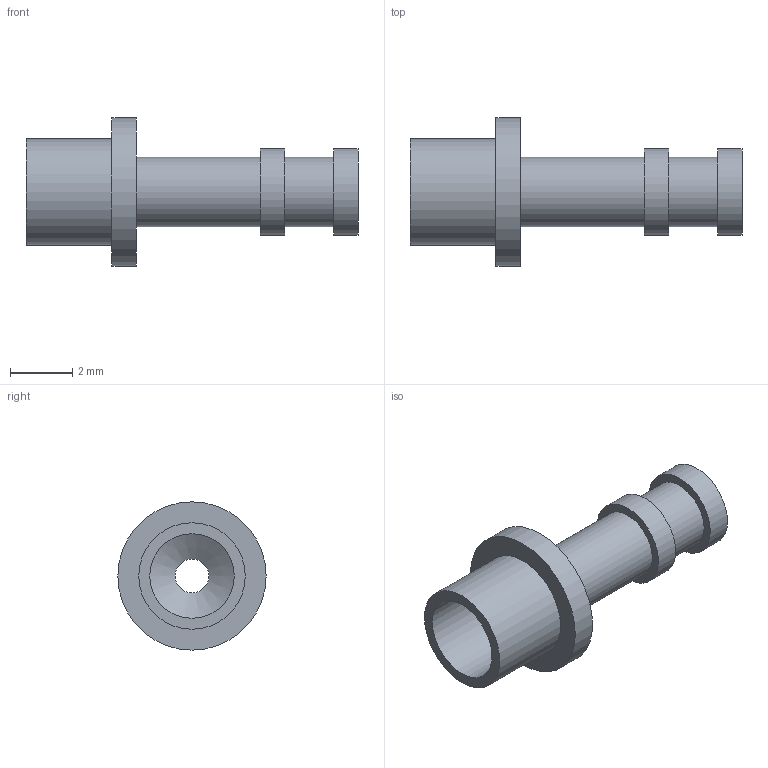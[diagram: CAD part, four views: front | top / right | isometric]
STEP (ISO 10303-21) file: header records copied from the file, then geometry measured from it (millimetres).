
FILE_DESCRIPTION(/* description */ (''),/* implementation_level */ '2;1');
FILE_NAME(/* name */ 'Z:\STEP folder\160-1798-02.ipt.stp',/* time_stamp */ '2016-12-07T10:48:57+00:00',/* author */ ('Paul Karlsons'),/* organization */ (''),/* preprocessor_version */ 'ST-DEVELOPER v15.2',/* originating_system */ 'Autodesk Inventor 2014',/* authorisation */ '');
FILE_SCHEMA (('AUTOMOTIVE_DESIGN { 1 0 10303 214 3 1 1 }'));
Length unit declared in the file: millimetre
Products named in the file (1): 160-1798-02
Bounding box: 10.69 x 4.78 x 4.78 mm (x, y, z)
Volume: 48 mm3; surface area: 185.8 mm2
Topology: 1 solids, 1 shells, 16 faces, 26 edges, 17 vertices
Faces by surface type: cylinder 8, plane 7, cone 1
Full cylindrical faces by diameter (mm): 1.092 x1, 2.235 x1, 2.236 x1, 2.718 x1, 2.794 x2, 3.429 x1, 4.775 x1
Entity records: 349 total; most frequent: DIRECTION 66, CARTESIAN_POINT 49, AXIS2_PLACEMENT_3D 33, EDGE_LOOP 32, ORIENTED_EDGE 32, FACE_BOUND 20, CIRCLE 16, VERTEX_POINT 16
